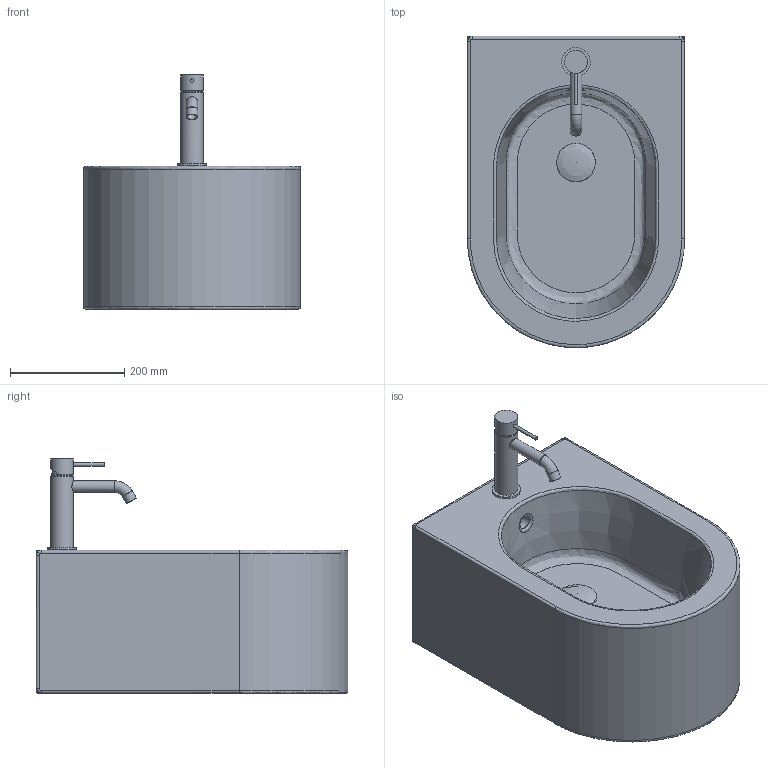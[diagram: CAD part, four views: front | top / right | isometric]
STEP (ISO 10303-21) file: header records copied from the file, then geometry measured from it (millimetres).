
FILE_DESCRIPTION(/* description */ (''),/* implementation_level */ '2;1');
FILE_NAME(/* name */ 'OTBS',/* time_stamp */ '2024-10-07T09:20:32+02:00',/* author */ (''),/* organization */ (''),/* preprocessor_version */ 'ST-DEVELOPER v16.5',/* originating_system */ 'Rhino 7.27',/* authorisation */ '');
FILE_SCHEMA (('CONFIG_CONTROL_DESIGN'));
Length unit declared in the file: centimetre
Products named in the file (1): Document
Bounding box: 380.01 x 545 x 410 mm (x, y, z)
Volume: 35931793.4 mm3; surface area: 991416.6 mm2
Topology: 3 solids, 3 shells, 76 faces, 167 edges, 102 vertices
Faces by surface type: bspline 45, plane 17, cylinder 14
Full cylindrical faces by diameter (mm): 6 x1, 16.815 x2, 20.178 x2, 25 x1, 36.471 x1, 40 x2, 45 x1, 50 x1
Entity records: 6133 total; most frequent: CARTESIAN_POINT 4963, ORIENTED_EDGE 330, EDGE_CURVE 165, B_SPLINE_CURVE_WITH_KNOTS 107, VERTEX_POINT 102, EDGE_LOOP 83, ADVANCED_FACE 76, FACE_OUTER_BOUND 76
